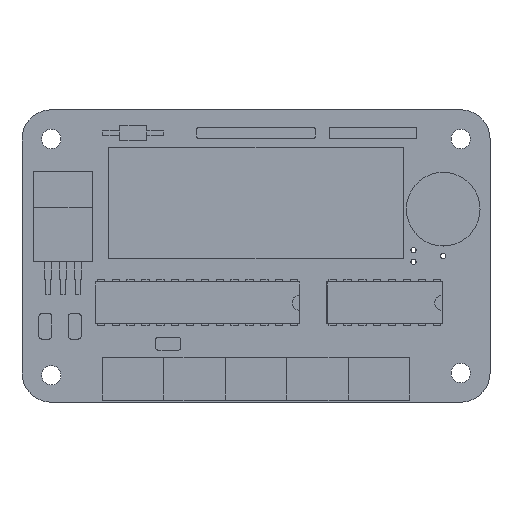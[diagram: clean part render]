
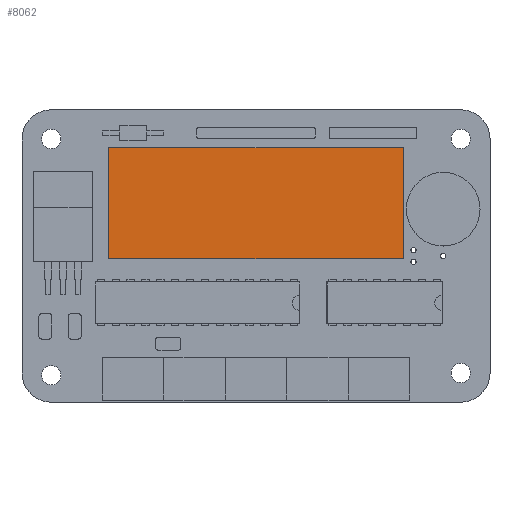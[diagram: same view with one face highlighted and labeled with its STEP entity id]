
A CAD part, top view. The second image highlights one B-rep face of the part: STEP entity #8062.
In plain terms, the highlighted planar face has unit normal (0, 0, 1).
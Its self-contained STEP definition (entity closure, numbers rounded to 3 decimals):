
#213 = VERTEX_POINT ( 'NONE', #5334 ) ;
#743 = DIRECTION ( 'NONE',  ( 1., 0., 0. ) ) ;
#1006 = VERTEX_POINT ( 'NONE', #3778 ) ;
#1081 = ORIENTED_EDGE ( 'NONE', *, *, #6339, .T. ) ;
#1148 = LINE ( 'NONE', #4212, #8644 ) ;
#1501 = CARTESIAN_POINT ( 'NONE',  ( 65.15, 24.5, 9.6 ) ) ;
#1988 = DIRECTION ( 'NONE',  ( -1., 0., 0. ) ) ;
#2304 = LINE ( 'NONE', #1501, #9438 ) ;
#3778 = CARTESIAN_POINT ( 'NONE',  ( 14.85, 24.5, 9.6 ) ) ;
#3812 = DIRECTION ( 'NONE',  ( 0., 1., 0. ) ) ;
#3860 = LINE ( 'NONE', #5527, #4347 ) ;
#4066 = CARTESIAN_POINT ( 'NONE',  ( 65.15, 24.5, 9.6 ) ) ;
#4212 = CARTESIAN_POINT ( 'NONE',  ( 14.85, 24.5, 9.6 ) ) ;
#4342 = PLANE ( 'NONE',  #9084 ) ;
#4347 = VECTOR ( 'NONE', #3812, 1000. ) ;
#4784 = EDGE_CURVE ( 'NONE', #9150, #5025, #3860, .T. ) ;
#5025 = VERTEX_POINT ( 'NONE', #5120 ) ;
#5120 = CARTESIAN_POINT ( 'NONE',  ( 65.15, 43.5, 9.6 ) ) ;
#5327 = ORIENTED_EDGE ( 'NONE', *, *, #4784, .T. ) ;
#5334 = CARTESIAN_POINT ( 'NONE',  ( 14.85, 43.5, 9.6 ) ) ;
#5527 = CARTESIAN_POINT ( 'NONE',  ( 65.15, 43.5, 9.6 ) ) ;
#6339 = EDGE_CURVE ( 'NONE', #213, #1006, #1148, .T. ) ;
#7273 = DIRECTION ( 'NONE',  ( 0., -1., 0. ) ) ;
#7449 = ORIENTED_EDGE ( 'NONE', *, *, #9036, .T. ) ;
#7500 = FACE_OUTER_BOUND ( 'NONE', #8508, .T. ) ;
#7501 = VECTOR ( 'NONE', #8894, 1000. ) ;
#8045 = LINE ( 'NONE', #9742, #7501 ) ;
#8062 = ADVANCED_FACE ( 'NONE', ( #7500 ), #4342, .F. ) ;
#8171 = CARTESIAN_POINT ( 'NONE',  ( 0., 0., 9.6 ) ) ;
#8508 = EDGE_LOOP ( 'NONE', ( #1081, #7449, #5327, #9879 ) ) ;
#8644 = VECTOR ( 'NONE', #7273, 1000. ) ;
#8866 = EDGE_CURVE ( 'NONE', #5025, #213, #8045, .T. ) ;
#8894 = DIRECTION ( 'NONE',  ( -1., 0., 0. ) ) ;
#9036 = EDGE_CURVE ( 'NONE', #1006, #9150, #2304, .T. ) ;
#9084 = AXIS2_PLACEMENT_3D ( 'NONE', #8171, #9817, #1988 ) ;
#9150 = VERTEX_POINT ( 'NONE', #4066 ) ;
#9438 = VECTOR ( 'NONE', #743, 1000. ) ;
#9742 = CARTESIAN_POINT ( 'NONE',  ( 14.85, 43.5, 9.6 ) ) ;
#9817 = DIRECTION ( 'NONE',  ( 0., 0., -1. ) ) ;
#9879 = ORIENTED_EDGE ( 'NONE', *, *, #8866, .T. ) ;
